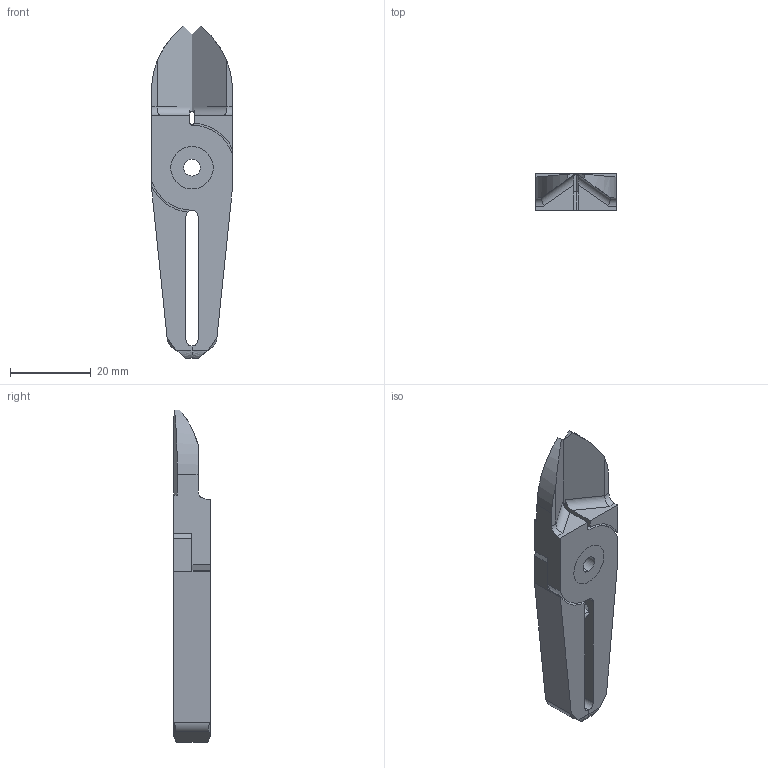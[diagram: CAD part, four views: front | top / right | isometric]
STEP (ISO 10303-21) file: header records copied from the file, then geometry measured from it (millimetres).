
FILE_DESCRIPTION (( 'STEP AP214' ), '1' );
FILE_NAME ('NT10AJV.STEP', '2019-11-29T00:59:21', ( '微软用户' ), ( '微软中国' ), 'SwSTEP 2.0', 'SolidWorks 2016', '' );
FILE_SCHEMA (( 'AUTOMOTIVE_DESIGN' ));
Length unit declared in the file: millimetre
Products named in the file (4): BR2; BR1; BS; NT10AJV
Assembly tree (3 placements, depth 2):
  NT10AJV
    BS
    BR1
    BR2
Bounding box: 20 x 9 x 82 mm (x, y, z)
Volume: 8699.3 mm3; surface area: 6501 mm2
Topology: 3 solids, 3 shells, 98 faces, 254 edges, 160 vertices
Faces by surface type: plane 42, cylinder 28, cone 16, bspline 12
Entity records: 3186 total; most frequent: CARTESIAN_POINT 730, ORIENTED_EDGE 500, DIRECTION 466, EDGE_CURVE 250, VERTEX_POINT 160, AXIS2_PLACEMENT_3D 156, LINE 154, VECTOR 154
